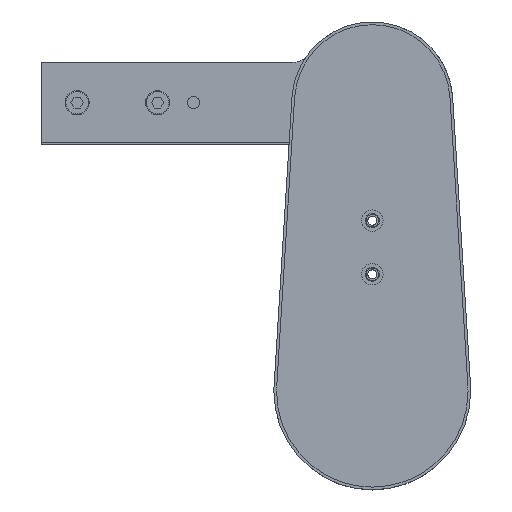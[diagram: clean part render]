
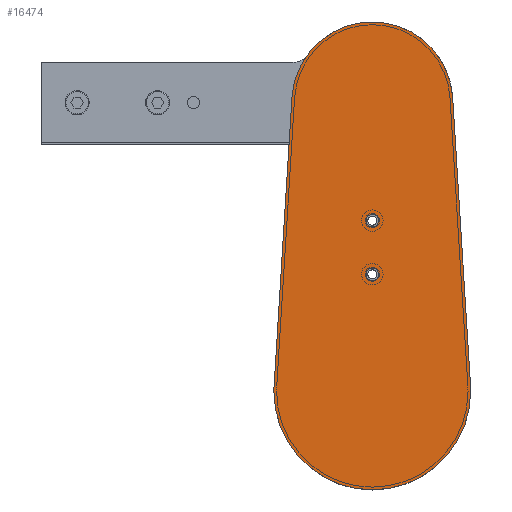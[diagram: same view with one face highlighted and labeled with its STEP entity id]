
A CAD part, top view. The second image highlights one B-rep face of the part: STEP entity #16474.
In plain terms, the highlighted planar face has unit normal (0, 0, 1) as drawn and (0, 0, -1) by its records, which use the part's own axes.
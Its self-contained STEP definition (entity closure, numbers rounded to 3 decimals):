
#230 = FACE_OUTER_BOUND ( 'NONE', #3775, .T. ) ;
#1383 = CARTESIAN_POINT ( 'NONE',  ( 0., 95.5, 0. ) ) ;
#2634 = ORIENTED_EDGE ( 'NONE', *, *, #48867, .F. ) ;
#3287 = CARTESIAN_POINT ( 'NONE',  ( -44.914, 164.286, 0. ) ) ;
#3775 = EDGE_LOOP ( 'NONE', ( #44192, #51015, #50533, #69579, #11961, #45678 ) ) ;
#6884 = VECTOR ( 'NONE', #22336, 1000. ) ;
#7134 = CARTESIAN_POINT ( 'NONE',  ( 0., 65.5, 0. ) ) ;
#7184 = VERTEX_POINT ( 'NONE', #13516 ) ;
#11508 = CARTESIAN_POINT ( 'NONE',  ( 44.914, 164.286, 0. ) ) ;
#11961 = ORIENTED_EDGE ( 'NONE', *, *, #42250, .F. ) ;
#12691 = ORIENTED_EDGE ( 'NONE', *, *, #60968, .F. ) ;
#13516 = CARTESIAN_POINT ( 'NONE',  ( -44.914, 164.286, 0. ) ) ;
#14711 = DIRECTION ( 'NONE',  ( 0., 0., 1. ) ) ;
#14764 = VERTEX_POINT ( 'NONE', #46623 ) ;
#14973 = CARTESIAN_POINT ( 'NONE',  ( 0., 0., 0. ) ) ;
#15910 = AXIS2_PLACEMENT_3D ( 'NONE', #7134, #50209, #19836 ) ;
#16474 = ADVANCED_FACE ( 'NONE', ( #21991, #31883, #230 ), #52585, .F. ) ;
#17888 = VERTEX_POINT ( 'NONE', #60200 ) ;
#18201 = DIRECTION ( 'NONE',  ( 0., 0., -1. ) ) ;
#19562 = CIRCLE ( 'NONE', #21410, 55. ) ;
#19756 = DIRECTION ( 'NONE',  ( 1., 0., 0. ) ) ;
#19836 = DIRECTION ( 'NONE',  ( 1., 0., 0. ) ) ;
#19916 = DIRECTION ( 'NONE',  ( 1., 0., 0. ) ) ;
#20268 = CARTESIAN_POINT ( 'NONE',  ( 55., 0., 0. ) ) ;
#21410 = AXIS2_PLACEMENT_3D ( 'NONE', #14973, #14711, #27133 ) ;
#21991 = FACE_BOUND ( 'NONE', #68171, .T. ) ;
#22336 = DIRECTION ( 'NONE',  ( -0.062, -0.998, 0. ) ) ;
#22933 = AXIS2_PLACEMENT_3D ( 'NONE', #49506, #48673, #74552 ) ;
#23046 = VERTEX_POINT ( 'NONE', #50718 ) ;
#23895 = DIRECTION ( 'NONE',  ( -0.062, 0.998, 0. ) ) ;
#24041 = CARTESIAN_POINT ( 'NONE',  ( 0., 161.5, 0. ) ) ;
#24271 = AXIS2_PLACEMENT_3D ( 'NONE', #1383, #50820, #19916 ) ;
#25581 = AXIS2_PLACEMENT_3D ( 'NONE', #24041, #30997, #62664 ) ;
#26804 = CIRCLE ( 'NONE', #15910, 3.5 ) ;
#27133 = DIRECTION ( 'NONE',  ( 1., 0., 0. ) ) ;
#28212 = CIRCLE ( 'NONE', #22933, 3.5 ) ;
#28296 = DIRECTION ( 'NONE',  ( 1., 0., 0. ) ) ;
#28582 = EDGE_CURVE ( 'NONE', #14764, #7184, #77055, .T. ) ;
#28719 = AXIS2_PLACEMENT_3D ( 'NONE', #51233, #44353, #19756 ) ;
#30997 = DIRECTION ( 'NONE',  ( 0., 0., 1. ) ) ;
#31232 = DIRECTION ( 'NONE',  ( 1., 0., 0. ) ) ;
#31619 = CARTESIAN_POINT ( 'NONE',  ( 54.894, 3.406, 0. ) ) ;
#31638 = CIRCLE ( 'NONE', #59714, 55. ) ;
#31883 = FACE_BOUND ( 'NONE', #57206, .T. ) ;
#38085 = VECTOR ( 'NONE', #23895, 1000. ) ;
#38974 = CARTESIAN_POINT ( 'NONE',  ( 3.5, 65.5, 0. ) ) ;
#39869 = DIRECTION ( 'NONE',  ( 0., 0., 1. ) ) ;
#39969 = CARTESIAN_POINT ( 'NONE',  ( 0., 161.5, 0. ) ) ;
#39992 = CARTESIAN_POINT ( 'NONE',  ( 3.5, 95.5, 0. ) ) ;
#40296 = CARTESIAN_POINT ( 'NONE',  ( -54.894, 3.406, 0. ) ) ;
#42079 = CIRCLE ( 'NONE', #45385, 3.5 ) ;
#42250 = EDGE_CURVE ( 'NONE', #77999, #17888, #47683, .T. ) ;
#43968 = LINE ( 'NONE', #11508, #38085 ) ;
#44192 = ORIENTED_EDGE ( 'NONE', *, *, #28582, .F. ) ;
#44353 = DIRECTION ( 'NONE',  ( 0., 0., 1. ) ) ;
#44454 = LINE ( 'NONE', #3287, #6884 ) ;
#44970 = VERTEX_POINT ( 'NONE', #39992 ) ;
#45385 = AXIS2_PLACEMENT_3D ( 'NONE', #49670, #18201, #31232 ) ;
#45606 = EDGE_CURVE ( 'NONE', #74605, #14764, #43968, .T. ) ;
#45678 = ORIENTED_EDGE ( 'NONE', *, *, #71758, .F. ) ;
#46623 = CARTESIAN_POINT ( 'NONE',  ( 44.914, 164.286, 0. ) ) ;
#47683 = CIRCLE ( 'NONE', #28719, 55. ) ;
#47844 = EDGE_CURVE ( 'NONE', #23046, #80199, #26804, .T. ) ;
#48673 = DIRECTION ( 'NONE',  ( 0., 0., -1. ) ) ;
#48867 = EDGE_CURVE ( 'NONE', #80199, #23046, #42079, .T. ) ;
#49506 = CARTESIAN_POINT ( 'NONE',  ( 0., 95.5, 0. ) ) ;
#49670 = CARTESIAN_POINT ( 'NONE',  ( 0., 65.5, 0. ) ) ;
#50209 = DIRECTION ( 'NONE',  ( 0., 0., -1. ) ) ;
#50533 = ORIENTED_EDGE ( 'NONE', *, *, #71569, .F. ) ;
#50718 = CARTESIAN_POINT ( 'NONE',  ( -3.5, 65.5, 0. ) ) ;
#50820 = DIRECTION ( 'NONE',  ( 0., 0., -1. ) ) ;
#51015 = ORIENTED_EDGE ( 'NONE', *, *, #45606, .F. ) ;
#51233 = CARTESIAN_POINT ( 'NONE',  ( 0., 0., 0. ) ) ;
#51424 = CIRCLE ( 'NONE', #24271, 3.5 ) ;
#52585 = PLANE ( 'NONE',  #59536 ) ;
#53289 = DIRECTION ( 'NONE',  ( 1., 0., 0. ) ) ;
#55441 = VERTEX_POINT ( 'NONE', #20268 ) ;
#56655 = CARTESIAN_POINT ( 'NONE',  ( -3.5, 95.5, 0. ) ) ;
#57206 = EDGE_LOOP ( 'NONE', ( #2634, #79660 ) ) ;
#59536 = AXIS2_PLACEMENT_3D ( 'NONE', #39969, #78711, #28296 ) ;
#59714 = AXIS2_PLACEMENT_3D ( 'NONE', #78067, #39869, #53289 ) ;
#60083 = ORIENTED_EDGE ( 'NONE', *, *, #65418, .F. ) ;
#60200 = CARTESIAN_POINT ( 'NONE',  ( -55., 0., 0. ) ) ;
#60968 = EDGE_CURVE ( 'NONE', #44970, #74357, #28212, .T. ) ;
#62664 = DIRECTION ( 'NONE',  ( 1., 0., 0. ) ) ;
#65418 = EDGE_CURVE ( 'NONE', #74357, #44970, #51424, .T. ) ;
#68171 = EDGE_LOOP ( 'NONE', ( #12691, #60083 ) ) ;
#69579 = ORIENTED_EDGE ( 'NONE', *, *, #74659, .F. ) ;
#71569 = EDGE_CURVE ( 'NONE', #55441, #74605, #31638, .T. ) ;
#71758 = EDGE_CURVE ( 'NONE', #7184, #77999, #44454, .T. ) ;
#74357 = VERTEX_POINT ( 'NONE', #56655 ) ;
#74552 = DIRECTION ( 'NONE',  ( 1., 0., 0. ) ) ;
#74605 = VERTEX_POINT ( 'NONE', #31619 ) ;
#74659 = EDGE_CURVE ( 'NONE', #17888, #55441, #19562, .T. ) ;
#77055 = CIRCLE ( 'NONE', #25581, 45. ) ;
#77999 = VERTEX_POINT ( 'NONE', #40296 ) ;
#78067 = CARTESIAN_POINT ( 'NONE',  ( 0., 0., 0. ) ) ;
#78711 = DIRECTION ( 'NONE',  ( 0., 0., 1. ) ) ;
#79660 = ORIENTED_EDGE ( 'NONE', *, *, #47844, .F. ) ;
#80199 = VERTEX_POINT ( 'NONE', #38974 ) ;
